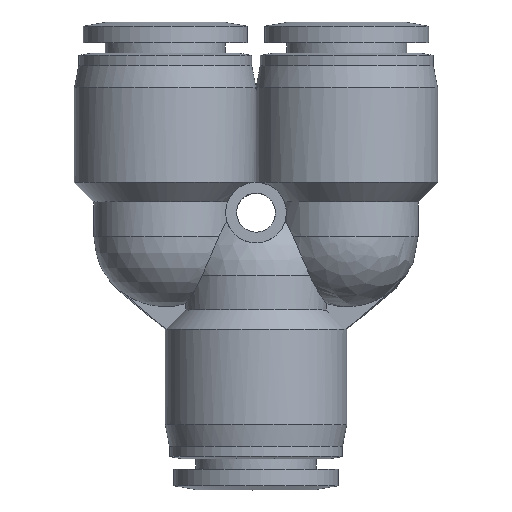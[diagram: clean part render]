
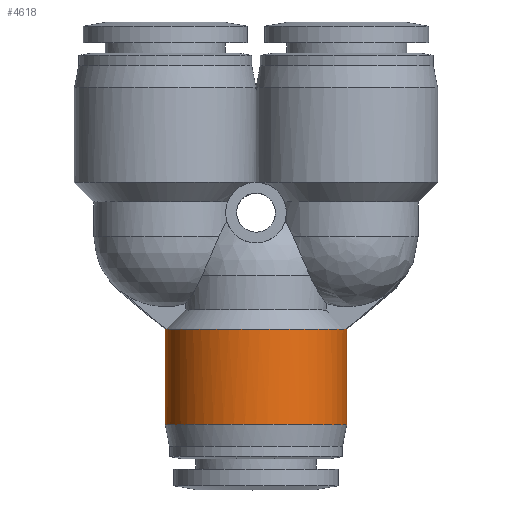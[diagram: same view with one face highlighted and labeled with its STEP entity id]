
A CAD part, top view. The second image highlights one B-rep face of the part: STEP entity #4618.
In plain terms, the highlighted cylindrical face has radius 10.5 mm (diameter 21 mm), a partial arc.
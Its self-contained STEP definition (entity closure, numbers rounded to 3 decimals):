
#55 = CARTESIAN_POINT ( 'NONE',  ( -1.374, 0., 10.5 ) ) ;
#69 = EDGE_CURVE ( 'NONE', #434, #4768, #4881, .T. ) ;
#121 = CARTESIAN_POINT ( 'NONE',  ( 9.813, 11., 3.94 ) ) ;
#194 = EDGE_CURVE ( 'NONE', #4968, #1347, #2098, .T. ) ;
#224 = CARTESIAN_POINT ( 'NONE',  ( 10.5, 11., 0. ) ) ;
#267 = DIRECTION ( 'NONE',  ( 0., 1., 0. ) ) ;
#390 = VECTOR ( 'NONE', #267, 1000. ) ;
#405 = CARTESIAN_POINT ( 'NONE',  ( 10.5, 0., 0. ) ) ;
#410 = DIRECTION ( 'NONE',  ( -1., 0., 0. ) ) ;
#434 = VERTEX_POINT ( 'NONE', #1359 ) ;
#480 = ORIENTED_EDGE ( 'NONE', *, *, #69, .T. ) ;
#491 = CARTESIAN_POINT ( 'NONE',  ( 10.392, 11., 1.5 ) ) ;
#589 = CARTESIAN_POINT ( 'NONE',  ( 4.838, 11., 9.402 ) ) ;
#597 = VERTEX_POINT ( 'NONE', #736 ) ;
#622 = EDGE_CURVE ( 'NONE', #5495, #4768, #5084, .T. ) ;
#736 = CARTESIAN_POINT ( 'NONE',  ( 10.392, 11., 1.5 ) ) ;
#819 = B_SPLINE_CURVE_WITH_KNOTS ( 'NONE', 3,
 ( #3674, #1437, #121, #2817, #4589, #4904, #589, #4102, #2364, #936, #1873, #3643, #5397, #3193, #2392, #2699, #1464, #4474 ),
 .UNSPECIFIED., .F., .F.,
 ( 4, 2, 2, 2, 2, 2, 2, 2, 4 ),
 ( 0., 0.125, 0.25, 0.375, 0.5, 0.625, 0.75, 0.875, 1. ),
 .UNSPECIFIED. ) ;
#936 = CARTESIAN_POINT ( 'NONE',  ( -1.249, 11., 10.5 ) ) ;
#1121 = DIRECTION ( 'NONE',  ( 0., 1., 0. ) ) ;
#1166 = ORIENTED_EDGE ( 'NONE', *, *, #4331, .F. ) ;
#1342 = CARTESIAN_POINT ( 'NONE',  ( -8.397, 0., 6.453 ) ) ;
#1347 = VERTEX_POINT ( 'NONE', #224 ) ;
#1359 = CARTESIAN_POINT ( 'NONE',  ( -10.392, 11., 1.5 ) ) ;
#1371 = CARTESIAN_POINT ( 'NONE',  ( 6.453, 0., 8.397 ) ) ;
#1400 = CARTESIAN_POINT ( 'NONE',  ( 10.5, 11., 0. ) ) ;
#1437 = CARTESIAN_POINT ( 'NONE',  ( 10.214, 11., 2.736 ) ) ;
#1461 = CARTESIAN_POINT ( 'NONE',  ( -10.5, 11., 0. ) ) ;
#1464 = CARTESIAN_POINT ( 'NONE',  ( -10.214, 11., 2.736 ) ) ;
#1719 = CARTESIAN_POINT ( 'NONE',  ( 10.464, 11., 1.003 ) ) ;
#1775 = CARTESIAN_POINT ( 'NONE',  ( -10.5, 0., 1.374 ) ) ;
#1779 = FACE_OUTER_BOUND ( 'NONE', #4504, .T. ) ;
#1806 = CARTESIAN_POINT ( 'NONE',  ( 8.397, 0., 6.453 ) ) ;
#1836 = CARTESIAN_POINT ( 'NONE',  ( 10.5, 11., 0.502 ) ) ;
#1873 = CARTESIAN_POINT ( 'NONE',  ( -2.498, 11., 10.275 ) ) ;
#2054 = ORIENTED_EDGE ( 'NONE', *, *, #622, .F. ) ;
#2098 = LINE ( 'NONE', #3335, #390 ) ;
#2120 = B_SPLINE_CURVE_WITH_KNOTS ( 'NONE', 3,
 ( #4038, #4007, #2268, #4466, #1806, #1371, #4383, #3953, #3155, #55, #5712, #4924, #2213, #1342, #4811, #5302, #1775, #3062 ),
 .UNSPECIFIED., .F., .F.,
 ( 4, 2, 2, 2, 2, 2, 2, 2, 4 ),
 ( 0.5, 0.563, 0.625, 0.688, 0.75, 0.813, 0.875, 0.938, 1. ),
 .UNSPECIFIED. ) ;
#2163 = CYLINDRICAL_SURFACE ( 'NONE', #4464, 10.5 ) ;
#2213 = CARTESIAN_POINT ( 'NONE',  ( -6.453, 0., 8.397 ) ) ;
#2268 = CARTESIAN_POINT ( 'NONE',  ( 10.227, 0., 2.748 ) ) ;
#2364 = CARTESIAN_POINT ( 'NONE',  ( 1.249, 11., 10.5 ) ) ;
#2392 = CARTESIAN_POINT ( 'NONE',  ( -8.615, 11., 6.132 ) ) ;
#2569 = EDGE_CURVE ( 'NONE', #597, #434, #819, .T. ) ;
#2661 = B_SPLINE_CURVE_WITH_KNOTS ( 'NONE', 3,
 ( #1400, #1836, #1719, #491 ),
 .UNSPECIFIED., .F., .F.,
 ( 4, 4 ),
 ( 0.5, 1. ),
 .UNSPECIFIED. ) ;
#2699 = CARTESIAN_POINT ( 'NONE',  ( -9.813, 11., 3.94 ) ) ;
#2817 = CARTESIAN_POINT ( 'NONE',  ( 8.615, 11., 6.132 ) ) ;
#2937 = CARTESIAN_POINT ( 'NONE',  ( -10.5, 0., 0. ) ) ;
#3062 = CARTESIAN_POINT ( 'NONE',  ( -10.5, 0., 0. ) ) ;
#3155 = CARTESIAN_POINT ( 'NONE',  ( 1.374, 0., 10.5 ) ) ;
#3193 = CARTESIAN_POINT ( 'NONE',  ( -7.818, 11., 7.12 ) ) ;
#3220 = CARTESIAN_POINT ( 'NONE',  ( -10.5, 11., 0.502 ) ) ;
#3261 = VECTOR ( 'NONE', #1121, 1000. ) ;
#3335 = CARTESIAN_POINT ( 'NONE',  ( 10.5, 5.5, 0. ) ) ;
#3583 = CARTESIAN_POINT ( 'NONE',  ( 0., 5.5, 0. ) ) ;
#3643 = CARTESIAN_POINT ( 'NONE',  ( -4.838, 11., 9.402 ) ) ;
#3674 = CARTESIAN_POINT ( 'NONE',  ( 10.392, 11., 1.5 ) ) ;
#3684 = ORIENTED_EDGE ( 'NONE', *, *, #4304, .T. ) ;
#3696 = CARTESIAN_POINT ( 'NONE',  ( -10.5, 11., 0. ) ) ;
#3953 = CARTESIAN_POINT ( 'NONE',  ( 2.748, 0., 10.227 ) ) ;
#4007 = CARTESIAN_POINT ( 'NONE',  ( 10.5, 0., 1.374 ) ) ;
#4038 = CARTESIAN_POINT ( 'NONE',  ( 10.5, 0., 0. ) ) ;
#4102 = CARTESIAN_POINT ( 'NONE',  ( 2.498, 11., 10.275 ) ) ;
#4181 = CARTESIAN_POINT ( 'NONE',  ( -10.392, 11., 1.5 ) ) ;
#4304 = EDGE_CURVE ( 'NONE', #1347, #597, #2661, .T. ) ;
#4331 = EDGE_CURVE ( 'NONE', #4968, #5495, #2120, .T. ) ;
#4383 = CARTESIAN_POINT ( 'NONE',  ( 5.288, 0., 9.175 ) ) ;
#4464 = AXIS2_PLACEMENT_3D ( 'NONE', #3583, #4844, #410 ) ;
#4466 = CARTESIAN_POINT ( 'NONE',  ( 9.175, 0., 5.288 ) ) ;
#4474 = CARTESIAN_POINT ( 'NONE',  ( -10.392, 11., 1.5 ) ) ;
#4504 = EDGE_LOOP ( 'NONE', ( #1166, #5010, #3684, #5032, #480, #2054 ) ) ;
#4523 = CARTESIAN_POINT ( 'NONE',  ( -10.464, 11., 1.003 ) ) ;
#4589 = CARTESIAN_POINT ( 'NONE',  ( 7.818, 11., 7.12 ) ) ;
#4618 = ADVANCED_FACE ( 'NONE', ( #1779 ), #2163, .T. ) ;
#4679 = CARTESIAN_POINT ( 'NONE',  ( -10.5, 5.5, 0. ) ) ;
#4768 = VERTEX_POINT ( 'NONE', #1461 ) ;
#4811 = CARTESIAN_POINT ( 'NONE',  ( -9.175, 0., 5.288 ) ) ;
#4844 = DIRECTION ( 'NONE',  ( 0., 1., 0. ) ) ;
#4881 = B_SPLINE_CURVE_WITH_KNOTS ( 'NONE', 3,
 ( #4181, #4523, #3220, #3696 ),
 .UNSPECIFIED., .F., .F.,
 ( 4, 4 ),
 ( 0., 1. ),
 .UNSPECIFIED. ) ;
#4904 = CARTESIAN_POINT ( 'NONE',  ( 5.93, 11., 8.755 ) ) ;
#4924 = CARTESIAN_POINT ( 'NONE',  ( -5.288, 0., 9.175 ) ) ;
#4968 = VERTEX_POINT ( 'NONE', #405 ) ;
#5010 = ORIENTED_EDGE ( 'NONE', *, *, #194, .T. ) ;
#5032 = ORIENTED_EDGE ( 'NONE', *, *, #2569, .T. ) ;
#5084 = LINE ( 'NONE', #4679, #3261 ) ;
#5302 = CARTESIAN_POINT ( 'NONE',  ( -10.227, 0., 2.748 ) ) ;
#5397 = CARTESIAN_POINT ( 'NONE',  ( -5.93, 11., 8.755 ) ) ;
#5495 = VERTEX_POINT ( 'NONE', #2937 ) ;
#5712 = CARTESIAN_POINT ( 'NONE',  ( -2.748, 0., 10.227 ) ) ;
